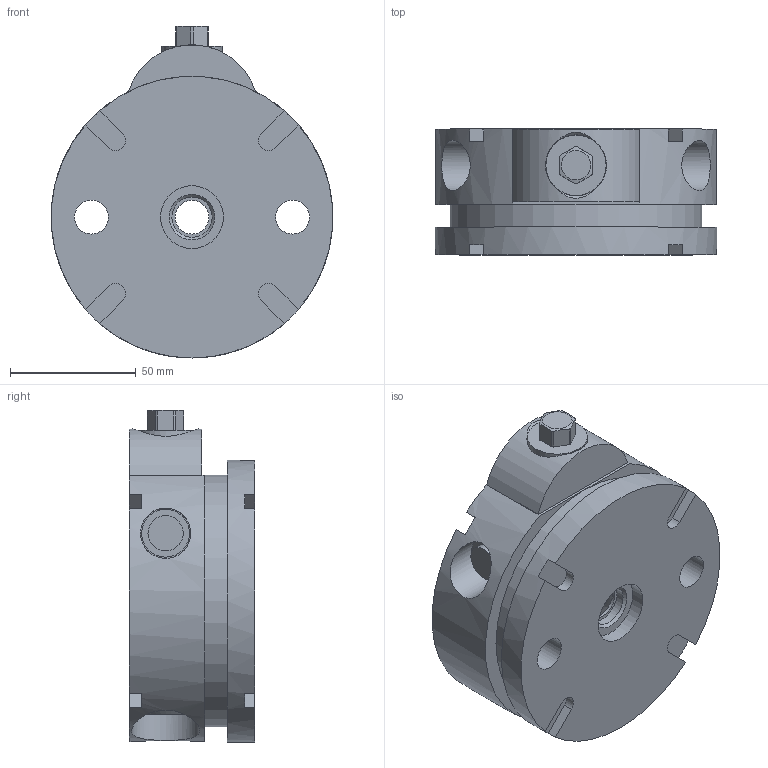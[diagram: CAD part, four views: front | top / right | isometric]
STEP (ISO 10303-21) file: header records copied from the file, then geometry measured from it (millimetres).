
FILE_DESCRIPTION( ( 'STEP AP203' ), '1' );
FILE_NAME( 'p:/temp/worker_17/temp/exporttempdir_1076_153_9X5LY/format_1/AMF535633.stp', '2020-03-20T05:48:40', ( 'License CC BY-ND 4.0' ), ( 'CADENAS' ), ' ', 'PARTsolutions', ' ' );
FILE_SCHEMA( ( 'CONFIG_CONTROL_DESIGN' ) );
Length unit declared in the file: millimetre
Products named in the file (1): _AMF535633
Bounding box: 112 x 50 x 132 mm (x, y, z)
Volume: 420980.4 mm3; surface area: 57672.6 mm2
Topology: 1 solids, 1 shells, 135 faces, 333 edges, 219 vertices
Faces by surface type: plane 80, cylinder 48, cone 7
Full cylindrical faces by diameter (mm): 13.5 x3, 14 x2, 16 x1, 19 x2, 20 x4, 24 x1, 24.2 x1, 25 x1, 26 x2, 27 x2, 32 x1, 100 x1, 112 x1
Entity records: 4363 total; most frequent: CARTESIAN_POINT 1155, DIRECTION 681, ORIENTED_EDGE 600, EDGE_CURVE 300, AXIS2_PLACEMENT_3D 259, VERTEX_POINT 213, EDGE_LOOP 187, LINE 163
